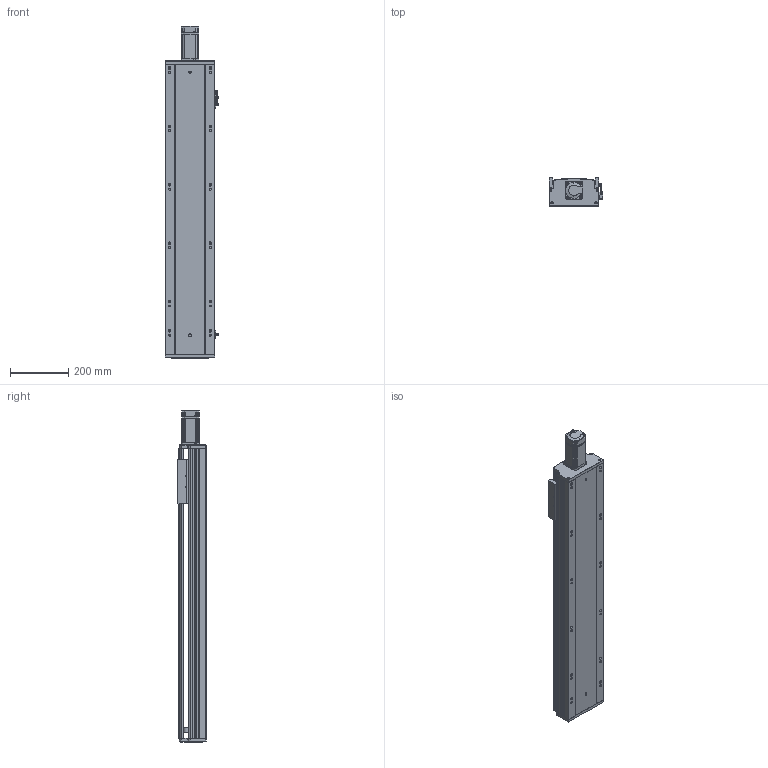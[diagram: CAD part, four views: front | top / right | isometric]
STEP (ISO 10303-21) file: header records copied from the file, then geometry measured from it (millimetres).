
FILE_DESCRIPTION (( 'STEP AP203' ), '1' );
FILE_NAME ('RY170Q-L2020-400-MK.SLDASM_0750.step', '2021-05-31T02:02:46', ( '盈信电脑' ), ( '东莞市道滘镇水果街19号' ), 'SwSTEP 2.0', 'SolidWorks 2016', '' );
FILE_SCHEMA (( 'CONFIG_CONTROL_DESIGN' ));
Length unit declared in the file: millimetre
Products named in the file (12): 滅袉蝶18-15; RY170綴裔啣; RY170Q臏賑輸20佪裝蹟譫(FK15); RY170外置感应片(200共用）; RY170Q-400倰第菁釱-MK_0750; 覜茼ん672; 15; RY170Q-L2020-400-MK.SLDASM_0750; RY170Q-400倰第裔啣-MK_0750; RY170ヶ醱裔啣; 侂狟400W侜督萇儂; 滅袉蝶18-10
Assembly tree (14 placements, depth 3):
  RY170Q-L2020-400-MK.SLDASM_0750
    RY170Q-400倰第菁釱-MK_0750
    RY170Q-400倰第裔啣-MK_0750
    RY170Q臏賑輸20佪裝蹟譫(FK15)
    侂狟400W侜督萇儂
      15
    RY170綴裔啣
    覜茼ん672  x3
    RY170外置感应片(200共用）
    RY170ヶ醱裔啣
    滅袉蝶18-15  x2
    滅袉蝶18-10
Bounding box: 183.7 x 97 x 1136.5 mm (x, y, z)
Volume: 5168020.6 mm3; surface area: 1674929 mm2
Topology: 13 solids, 13 shells, 2176 faces, 6191 edges, 3995 vertices
Faces by surface type: plane 1185, cylinder 785, cone 177, bspline 29
Entity records: 68254 total; most frequent: CARTESIAN_POINT 14939, ORIENTED_EDGE 11130, DIRECTION 10572, EDGE_CURVE 5565, VERTEX_POINT 3663, VECTOR 3608, LINE 3608, AXIS2_PLACEMENT_3D 3482
